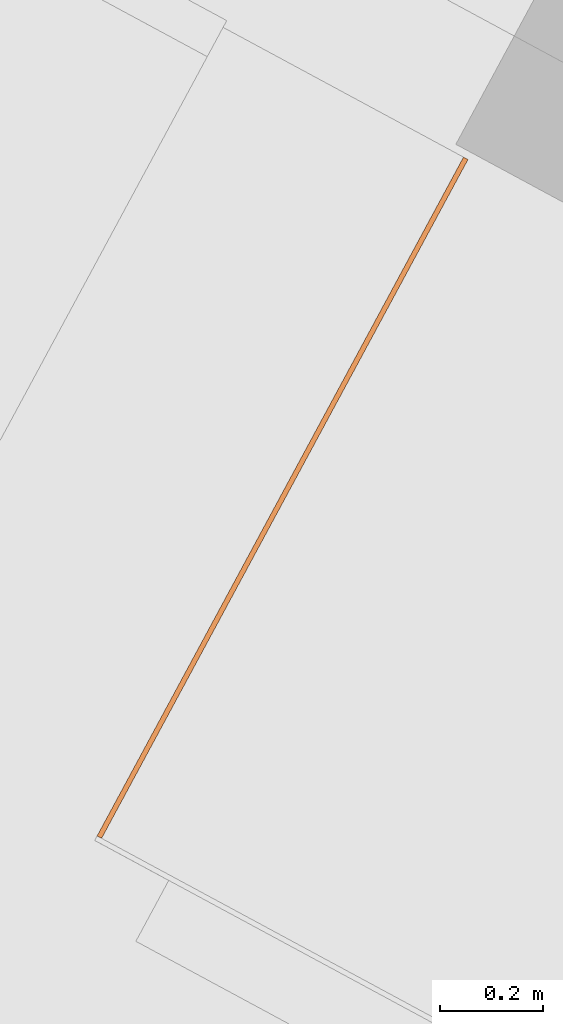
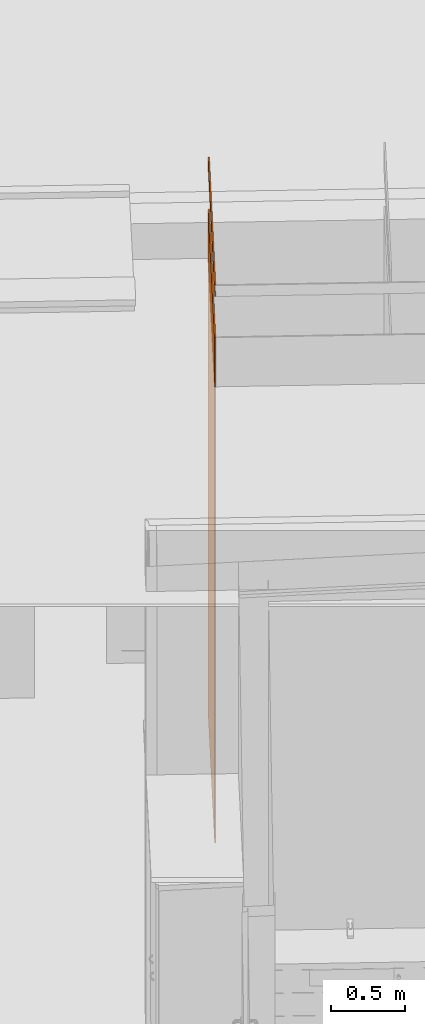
# One storey, part 48 of 52: 1 proxy.
"""IFC2X3 building model written with IfcOpenShell, lengths in metres."""

from ifc_helpers import new_model, entity, si_unit, converted_unit, derived_unit, money_unit, direction, frame, origin_with_axes, place, context, subcontext, project, spatial, faceted_brep, material, type_object, element, save


model = new_model("IFC2X3")

# Units and contexts
model_context = context("Model", 3, precision=1e-05, world=origin_with_axes(), true_north=direction((0.0, 1.0)))
body_context = subcontext(model_context, "Body", "Model", "MODEL_VIEW")
ifc_project = project(units=[si_unit("LENGTHUNIT", "METRE"), si_unit("AREAUNIT", "SQUARE_METRE"), si_unit("VOLUMEUNIT", "CUBIC_METRE"), converted_unit("PLANEANGLEUNIT", "DEGREE", entity("IfcPlaneAngleMeasure", 0.0174532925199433), si_unit("PLANEANGLEUNIT", "RADIAN"), dimensions=[0, 0, 0, 0, 0, 0, 0]), money_unit("EUR"), converted_unit("TIMEUNIT", "Year", entity("IfcTimeMeasure", 31556926.0), si_unit("TIMEUNIT", "SECOND"), dimensions=[0, 0, 1, 0, 0, 0, 0]), si_unit("MASSUNIT", "GRAM", prefix="KILO"), si_unit("THERMODYNAMICTEMPERATUREUNIT", "DEGREE_CELSIUS"), si_unit("LUMINOUSINTENSITYUNIT", "LUMEN"), si_unit("ENERGYUNIT", "JOULE", prefix="MEGA"), derived_unit("THERMALCONDUCTANCEUNIT", [(si_unit("POWERUNIT", "WATT"), 1), (si_unit("LENGTHUNIT", "METRE"), -1), (si_unit("THERMODYNAMICTEMPERATUREUNIT", "KELVIN"), -1)]), derived_unit("SPECIFICHEATCAPACITYUNIT", [(si_unit("ENERGYUNIT", "JOULE"), 1), (si_unit("MASSUNIT", "GRAM", prefix="KILO"), -1), (si_unit("THERMODYNAMICTEMPERATUREUNIT", "KELVIN"), -1)]), derived_unit("MASSDENSITYUNIT", [(si_unit("MASSUNIT", "GRAM", prefix="KILO"), 1), (si_unit("VOLUMEUNIT", "CUBIC_METRE"), -1)])], contexts=[model_context])

# Site, building, storey
site_placement = place(None, frame((-3.949935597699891, 1.740105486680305, 0.0), z_axis=(0.0, 0.0, 1.0), x_axis=(0.8799804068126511, -0.475009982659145, 0.0)))
site = spatial("IfcSite", under=ifc_project, at=site_placement, Name="Gelände", CompositionType="ELEMENT")
building_placement = place(site_placement, origin_with_axes())
building = spatial("IfcBuilding", under=site, at=building_placement, Name="Gebäude", CompositionType="ELEMENT")
storey_placement = place(building_placement, origin_with_axes())
storey = spatial("IfcBuildingStorey", under=building, at=storey_placement, Name="Erdgeschoss", CompositionType="ELEMENT", Elevation=0.0)

# Proxy
ifc_material = material(Name="Glas, Normalglas")
building_element_proxy_type = type_object("IfcBuildingElementProxyType", Name="Glas, Normalglas 10", PredefinedType="NOTDEFINED")
proxy_placement = place(storey_placement, frame((15.69249566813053, 10.64279319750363, -0.15), z_axis=(0.0, 0.0, 1.0), x_axis=(-1.751096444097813e-07, -0.9999999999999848, 0.0)))
element("IfcBuildingElementProxy", 1, at=proxy_placement, inside=storey, type_object=building_element_proxy_type, material=ifc_material, Name="I-Wand036", context=body_context, shape_type="Brep", body=[
    faceted_brep([(0.0, 0.0, 0.0), (0.0, 0.0, 4.170000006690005), (0.0, 0.009999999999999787, 4.170000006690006), (0.0, 0.009999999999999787, 0.0), (1.514993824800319, 0.0, 0.0), (1.514993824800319, 0.0, 4.170000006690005), (1.514993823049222, 0.009999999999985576, 4.170000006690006), (1.514993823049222, 0.009999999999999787, 0.0)], [[[0, 1, 2, 3]], [[4, 5, 1, 0]], [[5, 6, 2, 1]], [[3, 2, 6, 7]], [[4, 0, 3, 7]], [[7, 6, 5, 4]]]),
    faceted_brep([(1.514993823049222, 0.0099999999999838, 4.55), (1.514993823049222, 0.0099999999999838, 4.510000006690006), (0.0, 0.009999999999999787, 4.510000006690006), (0.0, 0.009999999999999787, 4.600000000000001), (1.504993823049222, 0.009999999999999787, 4.600000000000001), (1.504993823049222, 0.009999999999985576, 4.55), (1.514993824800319, 0.0, 4.55), (1.514993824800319, 0.0, 4.510000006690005), (0.0, 0.0, 4.510000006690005), (0.0, 0.0, 4.600000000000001), (1.504993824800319, -1.75109526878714e-09, 4.600000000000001), (1.504993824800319, 0.0, 4.55)], [[[0, 1, 2, 3, 4, 5]], [[6, 7, 1, 0]], [[7, 8, 2, 1]], [[3, 2, 8, 9]], [[3, 9, 10, 4]], [[10, 11, 5, 4]], [[11, 6, 0, 5]], [[9, 8, 7, 6, 11, 10]]]),
])

save(model, "model.ifc")
